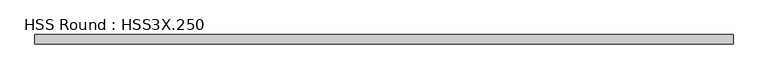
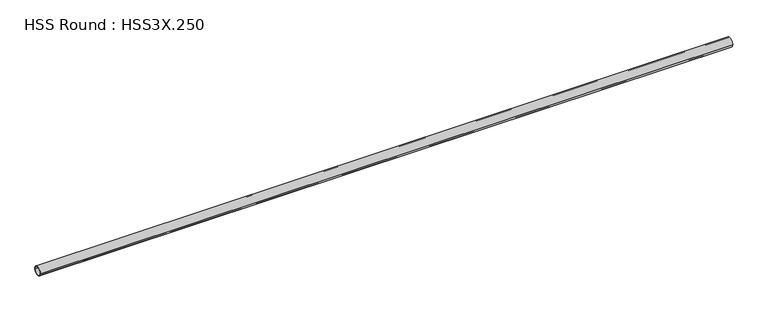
"""IFC4 building model written with IfcOpenShell, lengths in millimetres: member geometry, HSS Round : HSS3X.250."""

from ifc_helpers import new_model, si_unit, point, frame, origin, origin_2d, place, context, project, spatial, circle_curve, trimmed, segment, composite_curve, outline, extrude, source, transform, mapped, element, save


def hss_round_hss3x_250_9d4966fa(model_context):
    return source(origin(), model_context, "Body", "SweptSolid", [
        extrude(outline(composite_curve([segment(trimmed(circle_curve(origin_2d(), 38.1), [point((-38.1, 0.0))], [point((38.1, 0.0))], False, "CARTESIAN"), True, "CONTINUOUS"), segment(trimmed(circle_curve(origin_2d(), 38.1), [point((38.1, 0.0))], [point((-38.1, 0.0))], False, "CARTESIAN"), True, "CONTINUOUS")], self_intersect=False), holes=[composite_curve([segment(trimmed(circle_curve(origin_2d(), 31.75), [point((31.75, 0.0))], [point((-31.75, 0.0))], True, "CARTESIAN"), True, "CONTINUOUS"), segment(trimmed(circle_curve(origin_2d(), 31.75), [point((-31.75, 0.0))], [point((31.75, 0.0))], True, "CARTESIAN"), True, "CONTINUOUS")], self_intersect=False)]), frame((-2824.174008, 0.0, 0.0), z_axis=(1.0, 0.0, 0.0), x_axis=(0.0, 1.0, 0.0)), (0.0, 0.0, 1.0), 5710.2728358),
    ])


if __name__ == "__main__":
    model = new_model("IFC4")
    model_context = context("Model", 3, world=origin())
    ifc_project = project(units=[si_unit("LENGTHUNIT", "METRE", prefix="MILLI")], contexts=[model_context])
    site = spatial("IfcSite", under=ifc_project)
    building = spatial("IfcBuilding", under=site)
    placement = place(None, origin())
    hss_round_hss3x_250_shape = hss_round_hss3x_250_9d4966fa(model_context)
    element("IfcMember", 1, ObjectType="HSS Round : HSS3X.250", at=placement, inside=building, context=model_context, shape_type="MappedRepresentation", body=[
        mapped(hss_round_hss3x_250_shape, transform((0.0, 0.0, 0.0), x_axis=(1.0, 0.0, 0.0), y_axis=(0.0, 1.0, 0.0), z_axis=(0.0, 0.0, 1.0))),
    ])
    save(model, "model.ifc")
